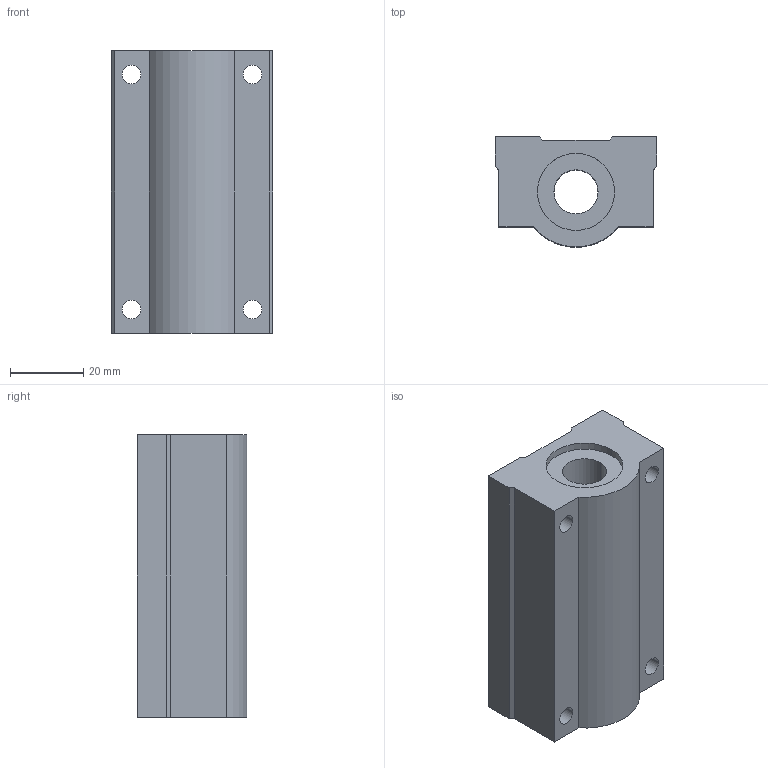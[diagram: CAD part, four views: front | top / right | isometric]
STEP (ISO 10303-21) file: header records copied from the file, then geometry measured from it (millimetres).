
FILE_DESCRIPTION((''),'2;1');
FILE_NAME('C:\Documents and Settings\ｿﾀﾀ蠑ｷ1\ｹﾙﾅﾁ ﾈｭｸ饅\ｺﾎﾇｰﾆﾄﾀﾏ\ﾁｦﾇｰ\SC__WUU\SC12WUU.stp','2005-06-22T14:56:36',('ｿﾀﾀ蠑ｷ1'),(''),'Autodesk Inventor 9','Autodesk Inventor 9','');
FILE_SCHEMA(('AUTOMOTIVE_DESIGN { 1 0 10303 214 1 1 1 1 }'));
Length unit declared in the file: millimetre
Products named in the file (1): SC__UU
Bounding box: 44 x 29.95 x 77 mm (x, y, z)
Volume: 74353.7 mm3; surface area: 17182.6 mm2
Topology: 1 solids, 1 shells, 32 faces, 84 edges, 56 vertices
Faces by surface type: plane 17, bspline 8, cylinder 7
Entity records: 1145 total; most frequent: CARTESIAN_POINT 309, ORIENTED_EDGE 168, DIRECTION 164, EDGE_CURVE 84, VERTEX_POINT 56, AXIS2_PLACEMENT_3D 55, VECTOR 54, LINE 54
